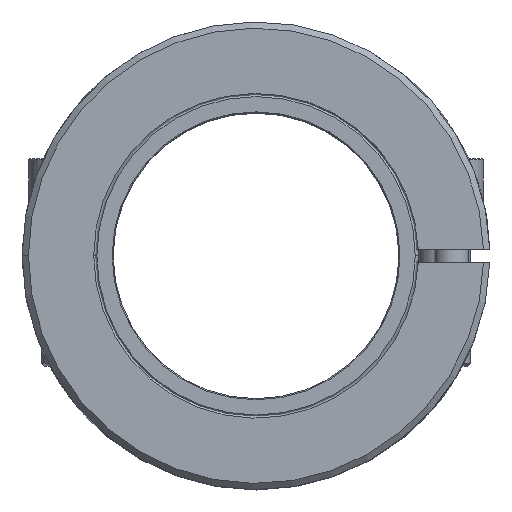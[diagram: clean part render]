
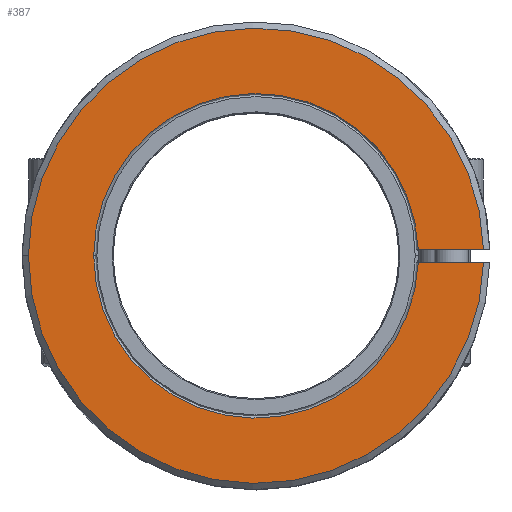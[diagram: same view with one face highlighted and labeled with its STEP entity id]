
A CAD part, top view. The second image highlights one B-rep face of the part: STEP entity #387.
In plain terms, the highlighted planar face has unit normal (0, 0, 1).
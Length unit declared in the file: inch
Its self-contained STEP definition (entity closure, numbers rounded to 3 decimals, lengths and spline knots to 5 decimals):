
#387 = ADVANCED_FACE( '', ( #653 ), #654, .T. );
#653 = FACE_OUTER_BOUND( '', #923, .T. );
#654 = PLANE( '', #924 );
#923 = EDGE_LOOP( '', ( #1870, #1871, #1872, #1873, #1874, #1875 ) );
#924 = AXIS2_PLACEMENT_3D( '', #1876, #1877, #1878 );
#1870 = ORIENTED_EDGE( '', *, *, #2186, .T. );
#1871 = ORIENTED_EDGE( '', *, *, #2199, .F. );
#1872 = ORIENTED_EDGE( '', *, *, #2154, .F. );
#1873 = ORIENTED_EDGE( '', *, *, #2194, .T. );
#1874 = ORIENTED_EDGE( '', *, *, #2195, .F. );
#1875 = ORIENTED_EDGE( '', *, *, #2165, .F. );
#1876 = CARTESIAN_POINT( '', ( 0., 0., 1. ) );
#1877 = DIRECTION( '', ( 0., 0., 1. ) );
#1878 = DIRECTION( '', ( 1., 0., 0. ) );
#2154 = EDGE_CURVE( '', #2618, #2614, #2620, .T. );
#2165 = EDGE_CURVE( '', #2638, #2634, #2640, .T. );
#2186 = EDGE_CURVE( '', #2638, #2671, #2673, .T. );
#2194 = EDGE_CURVE( '', #2618, #2684, #2686, .T. );
#2195 = EDGE_CURVE( '', #2634, #2684, #2687, .T. );
#2199 = EDGE_CURVE( '', #2614, #2671, #2691, .T. );
#2614 = VERTEX_POINT( '', #3497 );
#2618 = VERTEX_POINT( '', #3502 );
#2620 = CIRCLE( '', #3505, 1.095 );
#2634 = VERTEX_POINT( '', #3523 );
#2638 = VERTEX_POINT( '', #3528 );
#2640 = CIRCLE( '', #3531, 0.781 );
#2671 = VERTEX_POINT( '', #3613 );
#2673 = LINE( '', #3616, #3617 );
#2684 = VERTEX_POINT( '', #3634 );
#2686 = LINE( '', #3637, #3638 );
#2687 = CIRCLE( '', #3639, 0.781 );
#2691 = CIRCLE( '', #3643, 1.095 );
#3497 = CARTESIAN_POINT( '', ( -1.095, 0., 1. ) );
#3502 = CARTESIAN_POINT( '', ( 1.09459, -0.03, 1. ) );
#3505 = AXIS2_PLACEMENT_3D( '', #4073, #4074, #4075 );
#3523 = CARTESIAN_POINT( '', ( -0.781, 0., 1. ) );
#3528 = CARTESIAN_POINT( '', ( 0.78042, 0.03, 1. ) );
#3531 = AXIS2_PLACEMENT_3D( '', #4094, #4095, #4096 );
#3613 = CARTESIAN_POINT( '', ( 1.09459, 0.03, 1. ) );
#3616 = CARTESIAN_POINT( '', ( 1.40367, 0.03, 1. ) );
#3617 = VECTOR( '', #4131, 1. );
#3634 = CARTESIAN_POINT( '', ( 0.78042, -0.03, 1. ) );
#3637 = CARTESIAN_POINT( '', ( 0., -0.03, 1. ) );
#3638 = VECTOR( '', #4139, 1. );
#3639 = AXIS2_PLACEMENT_3D( '', #4140, #4141, #4142 );
#3643 = AXIS2_PLACEMENT_3D( '', #4152, #4153, #4154 );
#4073 = CARTESIAN_POINT( '', ( 0., 0., 1. ) );
#4074 = DIRECTION( '', ( 0., 0., -1. ) );
#4075 = DIRECTION( '', ( -1., 0., 0. ) );
#4094 = CARTESIAN_POINT( '', ( 0., 0., 1. ) );
#4095 = DIRECTION( '', ( 0., 0., 1. ) );
#4096 = DIRECTION( '', ( -1., 0., 0. ) );
#4131 = DIRECTION( '', ( 1., 0., 0. ) );
#4139 = DIRECTION( '', ( -1., 0., 0. ) );
#4140 = CARTESIAN_POINT( '', ( 0., 0., 1. ) );
#4141 = DIRECTION( '', ( 0., 0., 1. ) );
#4142 = DIRECTION( '', ( -1., 0., 0. ) );
#4152 = CARTESIAN_POINT( '', ( 0., 0., 1. ) );
#4153 = DIRECTION( '', ( 0., 0., -1. ) );
#4154 = DIRECTION( '', ( -1., 0., 0. ) );
